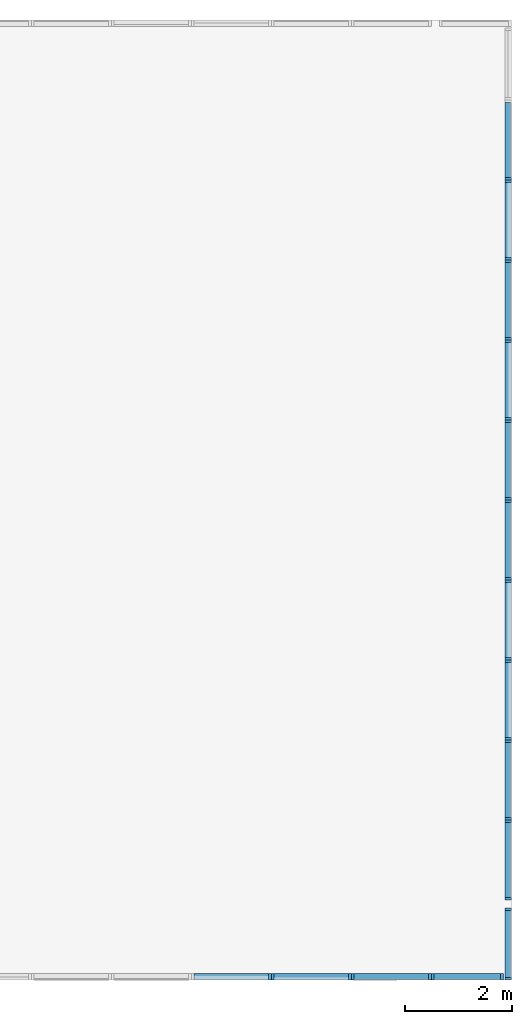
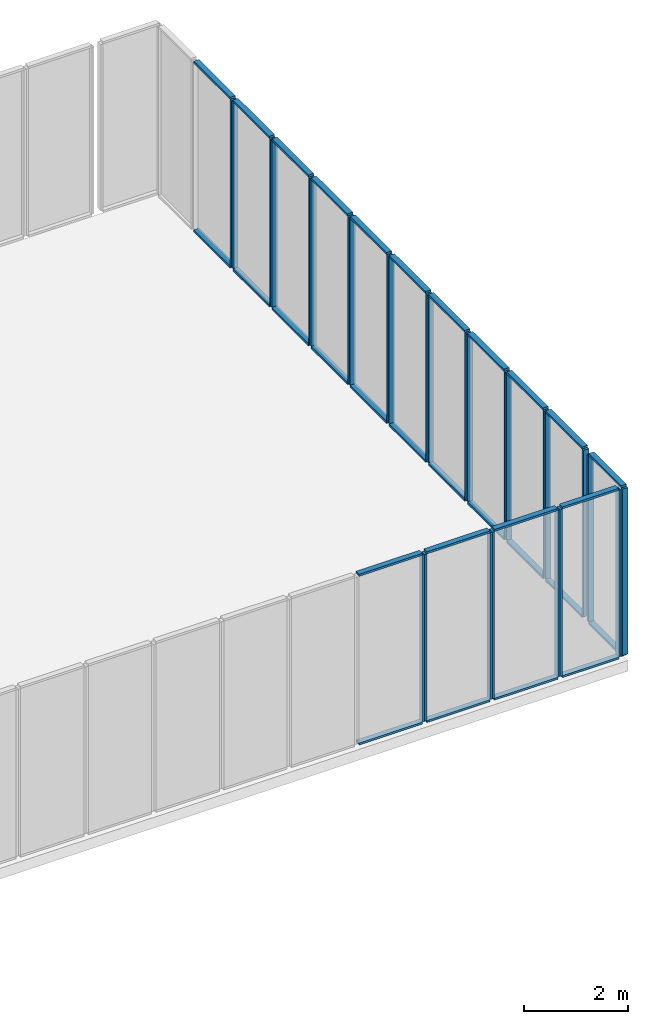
# One storey, part 2 of 4: 58 members.
"""IFC4 building model written with IfcOpenShell, lengths in metres."""

from ifc_helpers import new_model, si_unit, frame, origin_with_axes, place, context, subcontext, project, spatial, indexed_curve, outline, extrude, material, element, save


model = new_model("IFC4")

# Units and contexts
model_context = context("Model", 3, precision=1e-05, world=origin_with_axes())
body_context = subcontext(model_context, "Body", "Model", "MODEL_VIEW")
ifc_project = project(units=[si_unit("AREAUNIT", "SQUARE_METRE"), si_unit("VOLUMEUNIT", "CUBIC_METRE"), si_unit("LENGTHUNIT", "METRE")], contexts=[model_context])

# Site, building, storey
site = spatial("IfcSite", under=ifc_project, Name="Synthetic Site")
building = spatial("IfcBuilding", under=site, Name="Complex Tower")
storey_placement = place(None, frame((0.0, 0.0, 4.2), z_axis=(0.0, 0.0, 1.0), x_axis=(1.0, 0.0, 0.0)))
storey = spatial("IfcBuildingStorey", under=building, at=storey_placement, Name="L02", Elevation=4.2)

# Members
ifc_material = material(Name="Aluminium")
member_1_placement = place(storey_placement, frame((22.45, 0.0, 0.15000000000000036), z_axis=(0.0, 0.0, 1.0), x_axis=(1.0, 0.0, 0.0)))
element("IfcMember", 1, at=member_1_placement, inside=storey, material=ifc_material, Name="CT-L02-S-015-MR", PredefinedType="MULLION", context=body_context, shape_type="SweptSolid", body=[
    extrude(outline(indexed_curve([(0.0, 0.0), (0.0, 0.12), (0.05, 0.12), (0.05, 0.0), (0.0, 0.0)], self_intersect=False)), origin_with_axes(), (0.0, 0.0, 1.0), 3.9000000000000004),
])
for number, where, z_axis, x_axis, name in (
    (2, (21.05, 0.0, 0.10000000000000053), (0.0, 0.0, 1.0), (1.0, 0.0, 0.0), "CT-L02-S-015-FB"),
    (3, (21.05, 0.0, 4.05), (0.0, 0.0, 1.0), (1.0, 0.0, 0.0), "CT-L02-S-015-FT"),
):
    element("IfcMember", number, at=place(storey_placement, frame(where, z_axis=z_axis, x_axis=x_axis)), inside=storey, material=ifc_material, Name=name, PredefinedType="MULLION", context=body_context, shape_type="SweptSolid", body=[
        extrude(outline(indexed_curve([(0.0, 0.0), (0.0, 0.12), (1.4, 0.12), (1.4, 0.0), (0.0, 0.0)], self_intersect=False)), origin_with_axes(), (0.0, 0.0, 1.0), 0.05),
    ])
for number, where, z_axis, x_axis, name in (
    (4, (22.5, 0.0, 0.15000000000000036), (0.0, 0.0, 1.0), (1.0, 0.0, 0.0), "CT-L02-S-016-ML"),
    (5, (23.95, 0.0, 0.15000000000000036), (0.0, 0.0, 1.0), (1.0, 0.0, 0.0), "CT-L02-S-016-MR"),
):
    element("IfcMember", number, at=place(storey_placement, frame(where, z_axis=z_axis, x_axis=x_axis)), inside=storey, material=ifc_material, Name=name, PredefinedType="MULLION", context=body_context, shape_type="SweptSolid", body=[
        extrude(outline(indexed_curve([(0.0, 0.0), (0.0, 0.12), (0.05, 0.12), (0.05, 0.0), (0.0, 0.0)], self_intersect=False)), origin_with_axes(), (0.0, 0.0, 1.0), 3.9000000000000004),
    ])
for number, where, z_axis, x_axis, name in (
    (6, (22.55, 0.0, 0.10000000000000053), (0.0, 0.0, 1.0), (1.0, 0.0, 0.0), "CT-L02-S-016-FB"),
    (7, (22.55, 0.0, 4.05), (0.0, 0.0, 1.0), (1.0, 0.0, 0.0), "CT-L02-S-016-FT"),
):
    element("IfcMember", number, at=place(storey_placement, frame(where, z_axis=z_axis, x_axis=x_axis)), inside=storey, material=ifc_material, Name=name, PredefinedType="MULLION", context=body_context, shape_type="SweptSolid", body=[
        extrude(outline(indexed_curve([(0.0, 0.0), (0.0, 0.12), (1.4, 0.12), (1.4, 0.0), (0.0, 0.0)], self_intersect=False)), origin_with_axes(), (0.0, 0.0, 1.0), 0.05),
    ])
for number, where, z_axis, x_axis, name in (
    (8, (24.0, 0.0, 0.15000000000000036), (0.0, 0.0, 1.0), (1.0, 0.0, 0.0), "CT-L02-S-017-ML"),
    (9, (25.45, 0.0, 0.15000000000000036), (0.0, 0.0, 1.0), (1.0, 0.0, 0.0), "CT-L02-S-017-MR"),
):
    element("IfcMember", number, at=place(storey_placement, frame(where, z_axis=z_axis, x_axis=x_axis)), inside=storey, material=ifc_material, Name=name, PredefinedType="MULLION", context=body_context, shape_type="SweptSolid", body=[
        extrude(outline(indexed_curve([(0.0, 0.0), (0.0, 0.12), (0.05, 0.12), (0.05, 0.0), (0.0, 0.0)], self_intersect=False)), origin_with_axes(), (0.0, 0.0, 1.0), 3.9000000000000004),
    ])
for number, where, z_axis, x_axis, name in (
    (10, (24.05, 0.0, 0.10000000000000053), (0.0, 0.0, 1.0), (1.0, 0.0, 0.0), "CT-L02-S-017-FB"),
    (11, (24.05, 0.0, 4.05), (0.0, 0.0, 1.0), (1.0, 0.0, 0.0), "CT-L02-S-017-FT"),
):
    element("IfcMember", number, at=place(storey_placement, frame(where, z_axis=z_axis, x_axis=x_axis)), inside=storey, material=ifc_material, Name=name, PredefinedType="MULLION", context=body_context, shape_type="SweptSolid", body=[
        extrude(outline(indexed_curve([(0.0, 0.0), (0.0, 0.12), (1.4, 0.12), (1.4, 0.0), (0.0, 0.0)], self_intersect=False)), origin_with_axes(), (0.0, 0.0, 1.0), 0.05),
    ])
for number, where, z_axis, x_axis, name in (
    (12, (25.5, 0.0, 0.15000000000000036), (0.0, 0.0, 1.0), (1.0, 0.0, 0.0), "CT-L02-S-018-ML"),
    (13, (26.8, 0.0, 0.15000000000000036), (0.0, 0.0, 1.0), (1.0, 0.0, 0.0), "CT-L02-S-018-MR"),
):
    element("IfcMember", number, at=place(storey_placement, frame(where, z_axis=z_axis, x_axis=x_axis)), inside=storey, material=ifc_material, Name=name, PredefinedType="MULLION", context=body_context, shape_type="SweptSolid", body=[
        extrude(outline(indexed_curve([(0.0, 0.0), (0.0, 0.12), (0.05, 0.12), (0.05, 0.0), (0.0, 0.0)], self_intersect=False)), origin_with_axes(), (0.0, 0.0, 1.0), 3.9000000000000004),
    ])
for number, where, z_axis, x_axis, name in (
    (14, (25.55, 0.0, 0.10000000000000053), (0.0, 0.0, 1.0), (1.0, 0.0, 0.0), "CT-L02-S-018-FB"),
    (15, (25.55, 0.0, 4.05), (0.0, 0.0, 1.0), (1.0, 0.0, 0.0), "CT-L02-S-018-FT"),
):
    element("IfcMember", number, at=place(storey_placement, frame(where, z_axis=z_axis, x_axis=x_axis)), inside=storey, material=ifc_material, Name=name, PredefinedType="MULLION", context=body_context, shape_type="SweptSolid", body=[
        extrude(outline(indexed_curve([(0.0, 0.0), (0.0, 0.12), (1.25, 0.12), (1.25, 0.0), (0.0, 0.0)], self_intersect=False)), origin_with_axes(), (0.0, 0.0, 1.0), 0.05),
    ])
for number, where, z_axis, x_axis, name in (
    (16, (27.0, 0.0, 0.15000000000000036), (0.0, 0.0, 1.0), (6.123233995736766e-17, 1.0, 0.0), "CT-L02-E-001-ML"),
    (17, (27.0, 1.3, 0.15000000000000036), (0.0, 0.0, 1.0), (6.123233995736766e-17, 1.0, 0.0), "CT-L02-E-001-MR"),
):
    element("IfcMember", number, at=place(storey_placement, frame(where, z_axis=z_axis, x_axis=x_axis)), inside=storey, material=ifc_material, Name=name, PredefinedType="MULLION", context=body_context, shape_type="SweptSolid", body=[
        extrude(outline(indexed_curve([(0.0, 0.0), (0.0, 0.12), (0.05, 0.12), (0.05, 0.0), (0.0, 0.0)], self_intersect=False)), origin_with_axes(), (0.0, 0.0, 1.0), 3.9000000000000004),
    ])
for number, where, z_axis, x_axis, name in (
    (18, (27.0, 0.05, 0.10000000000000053), (0.0, 0.0, 1.0), (6.123233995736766e-17, 1.0, 0.0), "CT-L02-E-001-FB"),
    (19, (27.0, 0.05, 4.05), (0.0, 0.0, 1.0), (6.123233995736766e-17, 1.0, 0.0), "CT-L02-E-001-FT"),
):
    element("IfcMember", number, at=place(storey_placement, frame(where, z_axis=z_axis, x_axis=x_axis)), inside=storey, material=ifc_material, Name=name, PredefinedType="MULLION", context=body_context, shape_type="SweptSolid", body=[
        extrude(outline(indexed_curve([(0.0, 0.0), (0.0, 0.12), (1.25, 0.12), (1.25, 0.0), (0.0, 0.0)], self_intersect=False)), origin_with_axes(), (0.0, 0.0, 1.0), 0.05),
    ])
for number, where, z_axis, x_axis, name in (
    (20, (27.0, 1.5, 0.15000000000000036), (0.0, 0.0, 1.0), (6.123233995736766e-17, 1.0, 0.0), "CT-L02-E-002-ML"),
    (21, (27.0, 2.95, 0.15000000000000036), (0.0, 0.0, 1.0), (6.123233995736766e-17, 1.0, 0.0), "CT-L02-E-002-MR"),
):
    element("IfcMember", number, at=place(storey_placement, frame(where, z_axis=z_axis, x_axis=x_axis)), inside=storey, material=ifc_material, Name=name, PredefinedType="MULLION", context=body_context, shape_type="SweptSolid", body=[
        extrude(outline(indexed_curve([(0.0, 0.0), (0.0, 0.12), (0.05, 0.12), (0.05, 0.0), (0.0, 0.0)], self_intersect=False)), origin_with_axes(), (0.0, 0.0, 1.0), 3.9000000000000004),
    ])
for number, where, z_axis, x_axis, name in (
    (22, (27.0, 1.55, 0.10000000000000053), (0.0, 0.0, 1.0), (6.123233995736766e-17, 1.0, 0.0), "CT-L02-E-002-FB"),
    (23, (27.0, 1.55, 4.05), (0.0, 0.0, 1.0), (6.123233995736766e-17, 1.0, 0.0), "CT-L02-E-002-FT"),
):
    element("IfcMember", number, at=place(storey_placement, frame(where, z_axis=z_axis, x_axis=x_axis)), inside=storey, material=ifc_material, Name=name, PredefinedType="MULLION", context=body_context, shape_type="SweptSolid", body=[
        extrude(outline(indexed_curve([(0.0, 0.0), (0.0, 0.12), (1.4, 0.12), (1.4, 0.0), (0.0, 0.0)], self_intersect=False)), origin_with_axes(), (0.0, 0.0, 1.0), 0.05),
    ])
for number, where, z_axis, x_axis, name in (
    (24, (27.0, 3.0, 0.15000000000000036), (0.0, 0.0, 1.0), (6.123233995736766e-17, 1.0, 0.0), "CT-L02-E-003-ML"),
    (25, (27.0, 4.449999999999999, 0.15000000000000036), (0.0, 0.0, 1.0), (6.123233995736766e-17, 1.0, 0.0), "CT-L02-E-003-MR"),
):
    element("IfcMember", number, at=place(storey_placement, frame(where, z_axis=z_axis, x_axis=x_axis)), inside=storey, material=ifc_material, Name=name, PredefinedType="MULLION", context=body_context, shape_type="SweptSolid", body=[
        extrude(outline(indexed_curve([(0.0, 0.0), (0.0, 0.12), (0.05, 0.12), (0.05, 0.0), (0.0, 0.0)], self_intersect=False)), origin_with_axes(), (0.0, 0.0, 1.0), 3.9000000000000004),
    ])
for number, where, z_axis, x_axis, name in (
    (26, (27.0, 3.05, 0.10000000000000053), (0.0, 0.0, 1.0), (6.123233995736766e-17, 1.0, 0.0), "CT-L02-E-003-FB"),
    (27, (27.0, 3.05, 4.05), (0.0, 0.0, 1.0), (6.123233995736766e-17, 1.0, 0.0), "CT-L02-E-003-FT"),
):
    element("IfcMember", number, at=place(storey_placement, frame(where, z_axis=z_axis, x_axis=x_axis)), inside=storey, material=ifc_material, Name=name, PredefinedType="MULLION", context=body_context, shape_type="SweptSolid", body=[
        extrude(outline(indexed_curve([(0.0, 0.0), (0.0, 0.12), (1.4, 0.12), (1.4, 0.0), (0.0, 0.0)], self_intersect=False)), origin_with_axes(), (0.0, 0.0, 1.0), 0.05),
    ])
for number, where, z_axis, x_axis, name in (
    (28, (27.0, 4.5, 0.15000000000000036), (0.0, 0.0, 1.0), (6.123233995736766e-17, 1.0, 0.0), "CT-L02-E-004-ML"),
    (29, (27.0, 5.949999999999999, 0.15000000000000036), (0.0, 0.0, 1.0), (6.123233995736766e-17, 1.0, 0.0), "CT-L02-E-004-MR"),
):
    element("IfcMember", number, at=place(storey_placement, frame(where, z_axis=z_axis, x_axis=x_axis)), inside=storey, material=ifc_material, Name=name, PredefinedType="MULLION", context=body_context, shape_type="SweptSolid", body=[
        extrude(outline(indexed_curve([(0.0, 0.0), (0.0, 0.12), (0.05, 0.12), (0.05, 0.0), (0.0, 0.0)], self_intersect=False)), origin_with_axes(), (0.0, 0.0, 1.0), 3.9000000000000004),
    ])
for number, where, z_axis, x_axis, name in (
    (30, (27.0, 4.55, 0.10000000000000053), (0.0, 0.0, 1.0), (6.123233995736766e-17, 1.0, 0.0), "CT-L02-E-004-FB"),
    (31, (27.0, 4.55, 4.05), (0.0, 0.0, 1.0), (6.123233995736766e-17, 1.0, 0.0), "CT-L02-E-004-FT"),
):
    element("IfcMember", number, at=place(storey_placement, frame(where, z_axis=z_axis, x_axis=x_axis)), inside=storey, material=ifc_material, Name=name, PredefinedType="MULLION", context=body_context, shape_type="SweptSolid", body=[
        extrude(outline(indexed_curve([(0.0, 0.0), (0.0, 0.12), (1.4, 0.12), (1.4, 0.0), (0.0, 0.0)], self_intersect=False)), origin_with_axes(), (0.0, 0.0, 1.0), 0.05),
    ])
for number, where, z_axis, x_axis, name in (
    (32, (27.0, 6.0, 0.15000000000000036), (0.0, 0.0, 1.0), (6.123233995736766e-17, 1.0, 0.0), "CT-L02-E-005-ML"),
    (33, (27.0, 7.449999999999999, 0.15000000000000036), (0.0, 0.0, 1.0), (6.123233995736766e-17, 1.0, 0.0), "CT-L02-E-005-MR"),
):
    element("IfcMember", number, at=place(storey_placement, frame(where, z_axis=z_axis, x_axis=x_axis)), inside=storey, material=ifc_material, Name=name, PredefinedType="MULLION", context=body_context, shape_type="SweptSolid", body=[
        extrude(outline(indexed_curve([(0.0, 0.0), (0.0, 0.12), (0.05, 0.12), (0.05, 0.0), (0.0, 0.0)], self_intersect=False)), origin_with_axes(), (0.0, 0.0, 1.0), 3.9000000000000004),
    ])
for number, where, z_axis, x_axis, name in (
    (34, (27.0, 6.05, 0.10000000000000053), (0.0, 0.0, 1.0), (6.123233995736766e-17, 1.0, 0.0), "CT-L02-E-005-FB"),
    (35, (27.0, 6.05, 4.05), (0.0, 0.0, 1.0), (6.123233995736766e-17, 1.0, 0.0), "CT-L02-E-005-FT"),
):
    element("IfcMember", number, at=place(storey_placement, frame(where, z_axis=z_axis, x_axis=x_axis)), inside=storey, material=ifc_material, Name=name, PredefinedType="MULLION", context=body_context, shape_type="SweptSolid", body=[
        extrude(outline(indexed_curve([(0.0, 0.0), (0.0, 0.12), (1.4, 0.12), (1.4, 0.0), (0.0, 0.0)], self_intersect=False)), origin_with_axes(), (0.0, 0.0, 1.0), 0.05),
    ])
for number, where, z_axis, x_axis, name in (
    (36, (27.0, 7.5, 0.15000000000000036), (0.0, 0.0, 1.0), (6.123233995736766e-17, 1.0, 0.0), "CT-L02-E-006-ML"),
    (37, (27.0, 8.95, 0.15000000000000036), (0.0, 0.0, 1.0), (6.123233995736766e-17, 1.0, 0.0), "CT-L02-E-006-MR"),
):
    element("IfcMember", number, at=place(storey_placement, frame(where, z_axis=z_axis, x_axis=x_axis)), inside=storey, material=ifc_material, Name=name, PredefinedType="MULLION", context=body_context, shape_type="SweptSolid", body=[
        extrude(outline(indexed_curve([(0.0, 0.0), (0.0, 0.12), (0.05, 0.12), (0.05, 0.0), (0.0, 0.0)], self_intersect=False)), origin_with_axes(), (0.0, 0.0, 1.0), 3.9000000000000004),
    ])
for number, where, z_axis, x_axis, name in (
    (38, (27.0, 7.55, 0.10000000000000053), (0.0, 0.0, 1.0), (6.123233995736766e-17, 1.0, 0.0), "CT-L02-E-006-FB"),
    (39, (27.0, 7.55, 4.05), (0.0, 0.0, 1.0), (6.123233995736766e-17, 1.0, 0.0), "CT-L02-E-006-FT"),
):
    element("IfcMember", number, at=place(storey_placement, frame(where, z_axis=z_axis, x_axis=x_axis)), inside=storey, material=ifc_material, Name=name, PredefinedType="MULLION", context=body_context, shape_type="SweptSolid", body=[
        extrude(outline(indexed_curve([(0.0, 0.0), (0.0, 0.12), (1.4, 0.12), (1.4, 0.0), (0.0, 0.0)], self_intersect=False)), origin_with_axes(), (0.0, 0.0, 1.0), 0.05),
    ])
for number, where, z_axis, x_axis, name in (
    (40, (27.0, 9.0, 0.15000000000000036), (0.0, 0.0, 1.0), (6.123233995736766e-17, 1.0, 0.0), "CT-L02-E-007-ML"),
    (41, (27.0, 10.450000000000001, 0.15000000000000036), (0.0, 0.0, 1.0), (6.123233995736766e-17, 1.0, 0.0), "CT-L02-E-007-MR"),
):
    element("IfcMember", number, at=place(storey_placement, frame(where, z_axis=z_axis, x_axis=x_axis)), inside=storey, material=ifc_material, Name=name, PredefinedType="MULLION", context=body_context, shape_type="SweptSolid", body=[
        extrude(outline(indexed_curve([(0.0, 0.0), (0.0, 0.12), (0.05, 0.12), (0.05, 0.0), (0.0, 0.0)], self_intersect=False)), origin_with_axes(), (0.0, 0.0, 1.0), 3.9000000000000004),
    ])
for number, where, z_axis, x_axis, name in (
    (42, (27.0, 9.05, 0.10000000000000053), (0.0, 0.0, 1.0), (6.123233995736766e-17, 1.0, 0.0), "CT-L02-E-007-FB"),
    (43, (27.0, 9.05, 4.05), (0.0, 0.0, 1.0), (6.123233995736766e-17, 1.0, 0.0), "CT-L02-E-007-FT"),
):
    element("IfcMember", number, at=place(storey_placement, frame(where, z_axis=z_axis, x_axis=x_axis)), inside=storey, material=ifc_material, Name=name, PredefinedType="MULLION", context=body_context, shape_type="SweptSolid", body=[
        extrude(outline(indexed_curve([(0.0, 0.0), (0.0, 0.12), (1.4, 0.12), (1.4, 0.0), (0.0, 0.0)], self_intersect=False)), origin_with_axes(), (0.0, 0.0, 1.0), 0.05),
    ])
for number, where, z_axis, x_axis, name in (
    (44, (27.0, 10.5, 0.15000000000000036), (0.0, 0.0, 1.0), (6.123233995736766e-17, 1.0, 0.0), "CT-L02-E-008-ML"),
    (45, (27.0, 11.950000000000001, 0.15000000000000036), (0.0, 0.0, 1.0), (6.123233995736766e-17, 1.0, 0.0), "CT-L02-E-008-MR"),
):
    element("IfcMember", number, at=place(storey_placement, frame(where, z_axis=z_axis, x_axis=x_axis)), inside=storey, material=ifc_material, Name=name, PredefinedType="MULLION", context=body_context, shape_type="SweptSolid", body=[
        extrude(outline(indexed_curve([(0.0, 0.0), (0.0, 0.12), (0.05, 0.12), (0.05, 0.0), (0.0, 0.0)], self_intersect=False)), origin_with_axes(), (0.0, 0.0, 1.0), 3.9000000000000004),
    ])
for number, where, z_axis, x_axis, name in (
    (46, (27.0, 10.55, 0.10000000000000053), (0.0, 0.0, 1.0), (6.123233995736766e-17, 1.0, 0.0), "CT-L02-E-008-FB"),
    (47, (27.0, 10.55, 4.05), (0.0, 0.0, 1.0), (6.123233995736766e-17, 1.0, 0.0), "CT-L02-E-008-FT"),
):
    element("IfcMember", number, at=place(storey_placement, frame(where, z_axis=z_axis, x_axis=x_axis)), inside=storey, material=ifc_material, Name=name, PredefinedType="MULLION", context=body_context, shape_type="SweptSolid", body=[
        extrude(outline(indexed_curve([(0.0, 0.0), (0.0, 0.12), (1.4, 0.12), (1.4, 0.0), (0.0, 0.0)], self_intersect=False)), origin_with_axes(), (0.0, 0.0, 1.0), 0.05),
    ])
for number, where, z_axis, x_axis, name in (
    (48, (27.0, 12.0, 0.15000000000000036), (0.0, 0.0, 1.0), (6.123233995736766e-17, 1.0, 0.0), "CT-L02-E-009-ML"),
    (49, (27.0, 13.450000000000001, 0.15000000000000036), (0.0, 0.0, 1.0), (6.123233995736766e-17, 1.0, 0.0), "CT-L02-E-009-MR"),
):
    element("IfcMember", number, at=place(storey_placement, frame(where, z_axis=z_axis, x_axis=x_axis)), inside=storey, material=ifc_material, Name=name, PredefinedType="MULLION", context=body_context, shape_type="SweptSolid", body=[
        extrude(outline(indexed_curve([(0.0, 0.0), (0.0, 0.12), (0.05, 0.12), (0.05, 0.0), (0.0, 0.0)], self_intersect=False)), origin_with_axes(), (0.0, 0.0, 1.0), 3.9000000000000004),
    ])
for number, where, z_axis, x_axis, name in (
    (50, (27.0, 12.05, 0.10000000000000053), (0.0, 0.0, 1.0), (6.123233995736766e-17, 1.0, 0.0), "CT-L02-E-009-FB"),
    (51, (27.0, 12.05, 4.05), (0.0, 0.0, 1.0), (6.123233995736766e-17, 1.0, 0.0), "CT-L02-E-009-FT"),
):
    element("IfcMember", number, at=place(storey_placement, frame(where, z_axis=z_axis, x_axis=x_axis)), inside=storey, material=ifc_material, Name=name, PredefinedType="MULLION", context=body_context, shape_type="SweptSolid", body=[
        extrude(outline(indexed_curve([(0.0, 0.0), (0.0, 0.12), (1.4, 0.12), (1.4, 0.0), (0.0, 0.0)], self_intersect=False)), origin_with_axes(), (0.0, 0.0, 1.0), 0.05),
    ])
for number, where, z_axis, x_axis, name in (
    (52, (27.0, 13.5, 0.15000000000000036), (0.0, 0.0, 1.0), (6.123233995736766e-17, 1.0, 0.0), "CT-L02-E-010-ML"),
    (53, (27.0, 14.950000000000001, 0.15000000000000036), (0.0, 0.0, 1.0), (6.123233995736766e-17, 1.0, 0.0), "CT-L02-E-010-MR"),
):
    element("IfcMember", number, at=place(storey_placement, frame(where, z_axis=z_axis, x_axis=x_axis)), inside=storey, material=ifc_material, Name=name, PredefinedType="MULLION", context=body_context, shape_type="SweptSolid", body=[
        extrude(outline(indexed_curve([(0.0, 0.0), (0.0, 0.12), (0.05, 0.12), (0.05, 0.0), (0.0, 0.0)], self_intersect=False)), origin_with_axes(), (0.0, 0.0, 1.0), 3.9000000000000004),
    ])
for number, where, z_axis, x_axis, name in (
    (54, (27.0, 13.55, 0.10000000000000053), (0.0, 0.0, 1.0), (6.123233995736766e-17, 1.0, 0.0), "CT-L02-E-010-FB"),
    (55, (27.0, 13.55, 4.05), (0.0, 0.0, 1.0), (6.123233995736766e-17, 1.0, 0.0), "CT-L02-E-010-FT"),
):
    element("IfcMember", number, at=place(storey_placement, frame(where, z_axis=z_axis, x_axis=x_axis)), inside=storey, material=ifc_material, Name=name, PredefinedType="MULLION", context=body_context, shape_type="SweptSolid", body=[
        extrude(outline(indexed_curve([(0.0, 0.0), (0.0, 0.12), (1.4, 0.12), (1.4, 0.0), (0.0, 0.0)], self_intersect=False)), origin_with_axes(), (0.0, 0.0, 1.0), 0.05),
    ])
member_2_placement = place(storey_placement, frame((27.0, 15.0, 0.15000000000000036), z_axis=(0.0, 0.0, 1.0), x_axis=(6.123233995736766e-17, 1.0, 0.0)))
element("IfcMember", 56, at=member_2_placement, inside=storey, material=ifc_material, Name="CT-L02-E-011-ML", PredefinedType="MULLION", context=body_context, shape_type="SweptSolid", body=[
    extrude(outline(indexed_curve([(0.0, 0.0), (0.0, 0.12), (0.05, 0.12), (0.05, 0.0), (0.0, 0.0)], self_intersect=False)), origin_with_axes(), (0.0, 0.0, 1.0), 3.9000000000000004),
])
for number, where, z_axis, x_axis, name in (
    (57, (27.0, 15.05, 0.10000000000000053), (0.0, 0.0, 1.0), (6.123233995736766e-17, 1.0, 0.0), "CT-L02-E-011-FB"),
    (58, (27.0, 15.05, 4.05), (0.0, 0.0, 1.0), (6.123233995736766e-17, 1.0, 0.0), "CT-L02-E-011-FT"),
):
    element("IfcMember", number, at=place(storey_placement, frame(where, z_axis=z_axis, x_axis=x_axis)), inside=storey, material=ifc_material, Name=name, PredefinedType="MULLION", context=body_context, shape_type="SweptSolid", body=[
        extrude(outline(indexed_curve([(0.0, 0.0), (0.0, 0.12), (1.4, 0.12), (1.4, 0.0), (0.0, 0.0)], self_intersect=False)), origin_with_axes(), (0.0, 0.0, 1.0), 0.05),
    ])

save(model, "model.ifc")
